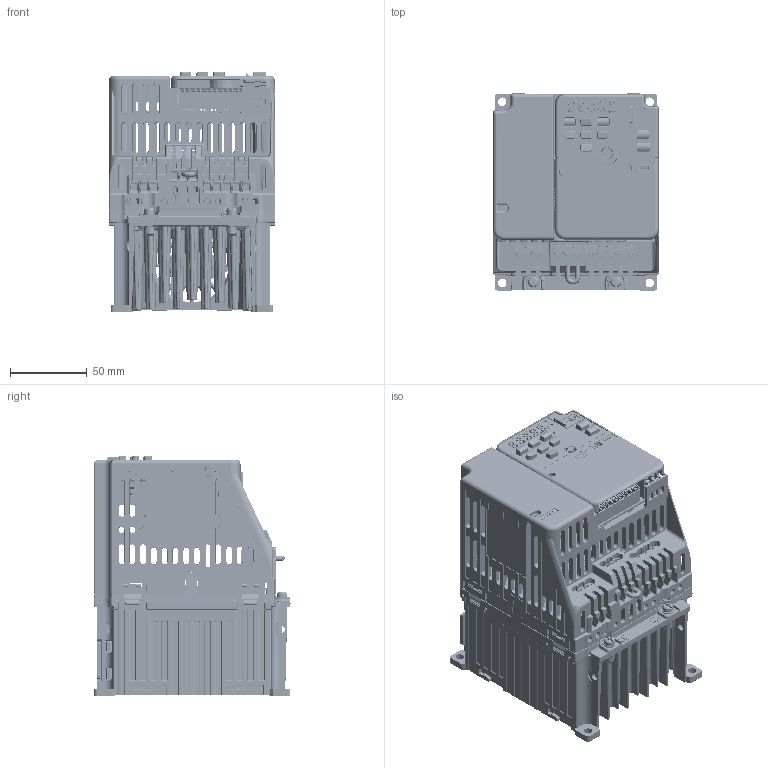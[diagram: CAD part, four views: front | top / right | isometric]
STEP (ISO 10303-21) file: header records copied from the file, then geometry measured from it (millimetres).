
FILE_DESCRIPTION((''),'2;1');
FILE_NAME('GA500_STD_FRAME_V2-F_ASM','2019-03-08T',('anm'),('YASKAWA ELECTRIC CORCORATION'),'PRO/ENGINEER BY PARAMETRIC TECHNOLOGY CORPORATION, 2015440','PRO/ENGINEER BY PARAMETRIC TECHNOLOGY CORPORATION, 2015440','');
FILE_SCHEMA(('CONFIG_CONTROL_DESIGN'));
Products named in the file (127): LAY_KIPR-GA50_Q_4007_1; 400-104-358_AF0_1; SCAT41279-1_1; 400-104-359_AF0_1; 05020VE24XBA-XXX_1; 400-107-684_1; 400-104-288-01E-5_6PCB_AF0_1; MKDS5NHV_5-ZB-6P35_AF0_1; MKDS5NHV_3-ZB-6P35_AF0_1; ETP760581_6PCB_AF0_ASM_1_ASM; 400-104-288-01E-5_5PCB_AF0_1; MKDS5NHV_3-ZB-6P35_AF1_1; ETP760571_5PCB_AF0_ASM_1_ASM; 400-108-062_AF1_1; 400-108-062_AF0_ASM_1_ASM; 400-104-023-01F-5_1; 95003-2884_1; B12B-PASK-1_1; MANIFOLD_SOLID_BREP_423803; MANIFOLD_SOLID_BREP_423954; MANIFOLD_SOLID_BREP_424105; MANIFOLD_SOLID_BREP_424256; MANIFOLD_SOLID_BREP_424409; MANIFOLD_SOLID_BREP_424560; MANIFOLD_SOLID_BREP_424711; MANIFOLD_SOLID_BREP_424862; MANIFOLD_SOLID_BREP_425013; MANIFOLD_SOLID_BREP_425164; MANIFOLD_SOLID_BREP_425315; 1734753-1_AF1_1_ASM; MANIFOLD_SOLID_BREP_435234; MANIFOLD_SOLID_BREP_435418; MANIFOLD_SOLID_BREP_435602; MANIFOLD_SOLID_BREP_435786; MANIFOLD_SOLID_BREP_435970; MANIFOLD_SOLID_BREP_436121; MANIFOLD_SOLID_BREP_436272; MANIFOLD_SOLID_BREP_436423; MANIFOLD_SOLID_BREP_436574; MANIFOLD_SOLID_BREP_436725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
Assembly tree (128 placements, depth 6):
  GA500_STD_FRAME_V2-F_ASM
    KIPR-GA50_Q_4007_ASM_2_ASM
      LAY_KIPR-GA50_Q_4007_1
      400-104-358_AF0_1
      SCAT41279-1_1  x2
      400-104-359_AF0_1
      05020VE24XBA-XXX_1
      400-107-684_1
      ETP760581_6PCB_AF0_ASM_1_ASM
        400-104-288-01E-5_6PCB_AF0_1
        MKDS5NHV_5-ZB-6P35_AF0_1
        MKDS5NHV_3-ZB-6P35_AF0_1
      ETP760571_5PCB_AF0_ASM_1_ASM
        400-104-288-01E-5_5PCB_AF0_1
        MKDS5NHV_3-ZB-6P35_AF1_1
      400-108-062_AF0_ASM_1_ASM
        400-108-062_AF1_1
      KTC750050-SXXXX_ASM_1_ASM
        400-104-023-01F-5_1
        95003-2884_1
        B12B-PASK-1_1
        1734753-1_AF1_1_ASM
          MANIFOLD_SOLID_BREP_423803
          MANIFOLD_SOLID_BREP_423954
          MANIFOLD_SOLID_BREP_424105
          MANIFOLD_SOLID_BREP_424256
          MANIFOLD_SOLID_BREP_424409
          MANIFOLD_SOLID_BREP_424560
          MANIFOLD_SOLID_BREP_424711
          MANIFOLD_SOLID_BREP_424862
          MANIFOLD_SOLID_BREP_425013
          MANIFOLD_SOLID_BREP_425164
          MANIFOLD_SOLID_BREP_425315
        DHB-PD20-S131N-4P9_AF1_1_ASM
          MANIFOLD_SOLID_BREP_435234
          MANIFOLD_SOLID_BREP_435418
          MANIFOLD_SOLID_BREP_435602
          MANIFOLD_SOLID_BREP_435786
          MANIFOLD_SOLID_BREP_435970
          MANIFOLD_SOLID_BREP_436121
          MANIFOLD_SOLID_BREP_436272
          MANIFOLD_SOLID_BREP_436423
          MANIFOLD_SOLID_BREP_436574
          MANIFOLD_SOLID_BREP_436725
          MANIFOLD_SOLID_BREP_436876
          MANIFOLD_SOLID_BREP_437027
          MANIFOLD_SOLID_BREP_437178
          MANIFOLD_SOLID_BREP_437329
          MANIFOLD_SOLID_BREP_437480
          MANIFOLD_SOLID_BREP_437631
          MANIFOLD_SOLID_BREP_437782
          MANIFOLD_SOLID_BREP_437933
          MANIFOLD_SOLID_BREP_438084
          MANIFOLD_SOLID_BREP_438235
          MANIFOLD_SOLID_BREP_438386
          MANIFOLD_SOLID_BREP_438537
          MANIFOLD_SOLID_BREP_438688
          MANIFOLD_SOLID_BREP_438839
          MANIFOLD_SOLID_BREP_438990
        KARI_SPTA1_9-3P5_AF0_1_ASM
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Bounding box: 108.58 x 128.29 x 156.75 mm (x, y, z)
Volume: 505129.8 mm3; surface area: 396332.9 mm2
Topology: 112 solids, 112 shells, 16821 faces, 45911 edges, 29286 vertices
Faces by surface type: plane 10255, cylinder 3521, cone 1048, bspline 1000, torus 627, sphere 362, extrusion 8
Entity records: 581340 total; most frequent: CARTESIAN_POINT 162858, ORIENTED_EDGE 90848, DIRECTION 80664, EDGE_CURVE 45424, VECTOR 31652, LINE 31644, VERTEX_POINT 29208, AXIS2_PLACEMENT_3D 24506
